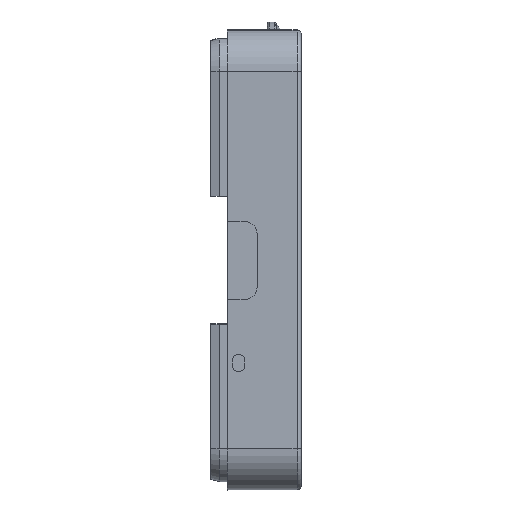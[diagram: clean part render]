
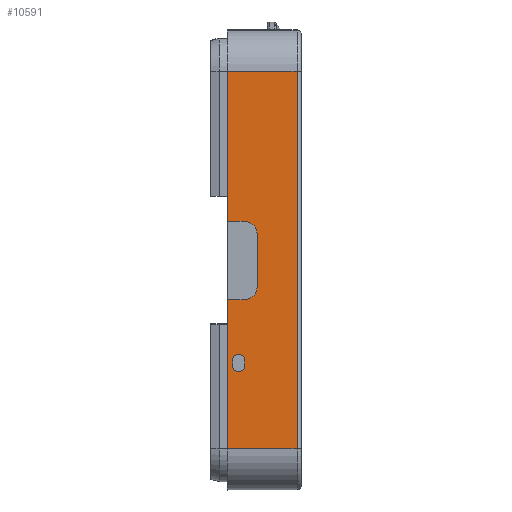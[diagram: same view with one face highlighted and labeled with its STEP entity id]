
A CAD part, left-side view. The second image highlights one B-rep face of the part: STEP entity #10591.
In plain terms, the highlighted planar face has unit normal (-1, 0, -0.001).
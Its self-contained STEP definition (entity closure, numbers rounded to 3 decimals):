
#3357=DIRECTION('',(-0.001,0.,1.));
#3358=VECTOR('',#3357,0.6);
#3359=CARTESIAN_POINT('',(-45.006,-2.14,
-20.094));
#3360=LINE('',#3359,#3358);
#3361=CARTESIAN_POINT('',(-45.007,-1.39,
-19.494));
#3362=DIRECTION('',(-1.,0.,-0.001));
#3363=DIRECTION('',(0.,-1.,0.));
#3364=AXIS2_PLACEMENT_3D('',#3361,#3362,#3363);
#3366=DIRECTION('',(0.001,0.,-1.));
#3367=VECTOR('',#3366,0.6);
#3368=CARTESIAN_POINT('',(-45.007,-0.64,
-19.494));
#3369=LINE('',#3368,#3367);
#3370=CARTESIAN_POINT('',(-45.006,-1.39,
-20.094));
#3371=DIRECTION('',(-1.,0.,-0.001));
#3372=DIRECTION('',(0.,1.,0.));
#3373=AXIS2_PLACEMENT_3D('',#3370,#3371,#3372);
#3375=DIRECTION('',(-0.001,0.,1.));
#3376=VECTOR('',#3375,46.);
#3377=CARTESIAN_POINT('',(-45.,-8.5,
-30.253));
#3378=LINE('',#3377,#3376);
#3379=DIRECTION('',(0.,-1.,0.));
#3380=VECTOR('',#3379,8.5);
#3381=CARTESIAN_POINT('',(-45.,0.,
-30.253));
#3382=LINE('',#3381,#3380);
#3383=DIRECTION('',(-0.001,0.,1.));
#3384=VECTOR('',#3383,18.187);
#3385=CARTESIAN_POINT('',(-45.,0.,
-30.253));
#3386=LINE('',#3385,#3384);
#3387=DIRECTION('',(0.,-1.,0.));
#3388=VECTOR('',#3387,2.065);
#3389=CARTESIAN_POINT('',(-45.011,0.,
-12.066));
#3390=LINE('',#3389,#3388);
#3391=CARTESIAN_POINT('',(-45.012,-2.065,
-10.486));
#3392=DIRECTION('',(-1.,0.,-0.001));
#3393=DIRECTION('',(0.001,0.,-1.));
#3394=AXIS2_PLACEMENT_3D('',#3391,#3392,#3393);
#3396=DIRECTION('',(-0.001,0.,1.));
#3397=VECTOR('',#3396,6.38);
#3398=CARTESIAN_POINT('',(-45.012,-3.645,
-10.486));
#3399=LINE('',#3398,#3397);
#3400=CARTESIAN_POINT('',(-45.016,-2.065,
-4.106));
#3401=DIRECTION('',(-1.,0.,-0.001));
#3402=DIRECTION('',(0.,-1.,0.));
#3403=AXIS2_PLACEMENT_3D('',#3400,#3401,#3402);
#3405=DIRECTION('',(0.,-1.,0.));
#3406=VECTOR('',#3405,2.065);
#3407=CARTESIAN_POINT('',(-45.017,0.,
-2.526));
#3408=LINE('',#3407,#3406);
#3409=DIRECTION('',(-0.001,0.,1.));
#3410=VECTOR('',#3409,18.273);
#3411=CARTESIAN_POINT('',(-45.017,0.,
-2.526));
#3412=LINE('',#3411,#3410);
#3413=DIRECTION('',(0.,-1.,0.));
#3414=VECTOR('',#3413,8.5);
#3415=CARTESIAN_POINT('',(-45.028,0.,
15.747));
#3416=LINE('',#3415,#3414);
#5147=CARTESIAN_POINT('',(-45.011,0.,
-12.066));
#5148=VERTEX_POINT('',#5147);
#5149=CARTESIAN_POINT('',(-45.017,0.,
-2.526));
#5150=VERTEX_POINT('',#5149);
#5151=CARTESIAN_POINT('',(-45.011,-2.065,
-12.066));
#5152=VERTEX_POINT('',#5151);
#5153=CARTESIAN_POINT('',(-45.012,-3.645,
-10.486));
#5154=VERTEX_POINT('',#5153);
#5155=CARTESIAN_POINT('',(-45.016,-3.645,
-4.106));
#5156=VERTEX_POINT('',#5155);
#5157=CARTESIAN_POINT('',(-45.017,-2.065,
-2.526));
#5158=VERTEX_POINT('',#5157);
#5387=CARTESIAN_POINT('',(-45.006,-2.14,
-20.094));
#5388=CARTESIAN_POINT('',(-45.007,-2.14,
-19.494));
#5389=VERTEX_POINT('',#5387);
#5390=VERTEX_POINT('',#5388);
#5391=CARTESIAN_POINT('',(-45.007,-0.64,
-19.494));
#5392=VERTEX_POINT('',#5391);
#5393=CARTESIAN_POINT('',(-45.006,-0.64,
-20.094));
#5394=VERTEX_POINT('',#5393);
#5443=CARTESIAN_POINT('',(-45.028,0.,
15.747));
#5445=VERTEX_POINT('',#5443);
#5448=CARTESIAN_POINT('',(-45.,0.,
-30.253));
#5450=VERTEX_POINT('',#5448);
#5561=CARTESIAN_POINT('',(-45.028,-8.5,
15.747));
#5562=VERTEX_POINT('',#5561);
#5565=CARTESIAN_POINT('',(-45.,-8.5,
-30.253));
#5566=VERTEX_POINT('',#5565);
#10563=CARTESIAN_POINT('',(-45.014,-4.,
-7.253));
#10564=DIRECTION('',(1.,0.,0.001));
#10565=DIRECTION('',(0.,1.,0.));
#10566=AXIS2_PLACEMENT_3D('',#10563,#10564,#10565);
#10567=PLANE('',#10566);
#10568=ORIENTED_EDGE('',*,*,#10554,.F.);
#10570=ORIENTED_EDGE('',*,*,#10569,.F.);
#10571=ORIENTED_EDGE('',*,*,#10481,.T.);
#10572=ORIENTED_EDGE('',*,*,#10348,.T.);
#10573=ORIENTED_EDGE('',*,*,#10363,.T.);
#10574=ORIENTED_EDGE('',*,*,#10377,.T.);
#10575=ORIENTED_EDGE('',*,*,#10391,.T.);
#10576=ORIENTED_EDGE('',*,*,#10405,.F.);
#10577=ORIENTED_EDGE('',*,*,#10418,.T.);
#10578=ORIENTED_EDGE('',*,*,#10529,.T.);
#10579=EDGE_LOOP('',(#10568,#10570,#10571,#10572,#10573,#10574,#10575,#10576,
#10577,#10578));
#10580=FACE_OUTER_BOUND('',#10579,.F.);
#10582=ORIENTED_EDGE('',*,*,#10581,.T.);
#10584=ORIENTED_EDGE('',*,*,#10583,.T.);
#10586=ORIENTED_EDGE('',*,*,#10585,.T.);
#10588=ORIENTED_EDGE('',*,*,#10587,.T.);
#10589=EDGE_LOOP('',(#10582,#10584,#10586,#10588));
#10590=FACE_BOUND('',#10589,.F.);
#10591=ADVANCED_FACE('',(#10580,#10590),#10567,.F.);
#3365=CIRCLE('',#3364,0.75);
#3374=CIRCLE('',#3373,0.75);
#3395=CIRCLE('',#3394,1.58);
#3404=CIRCLE('',#3403,1.58);
#10348=EDGE_CURVE('',#5148,#5152,#3390,.T.);
#10363=EDGE_CURVE('',#5152,#5154,#3395,.T.);
#10377=EDGE_CURVE('',#5154,#5156,#3399,.T.);
#10391=EDGE_CURVE('',#5156,#5158,#3404,.T.);
#10405=EDGE_CURVE('',#5150,#5158,#3408,.T.);
#10418=EDGE_CURVE('',#5150,#5445,#3412,.T.);
#10481=EDGE_CURVE('',#5450,#5148,#3386,.T.);
#10529=EDGE_CURVE('',#5445,#5562,#3416,.T.);
#10554=EDGE_CURVE('',#5566,#5562,#3378,.T.);
#10569=EDGE_CURVE('',#5450,#5566,#3382,.T.);
#10581=EDGE_CURVE('',#5389,#5390,#3360,.T.);
#10583=EDGE_CURVE('',#5390,#5392,#3365,.T.);
#10585=EDGE_CURVE('',#5392,#5394,#3369,.T.);
#10587=EDGE_CURVE('',#5394,#5389,#3374,.T.);
